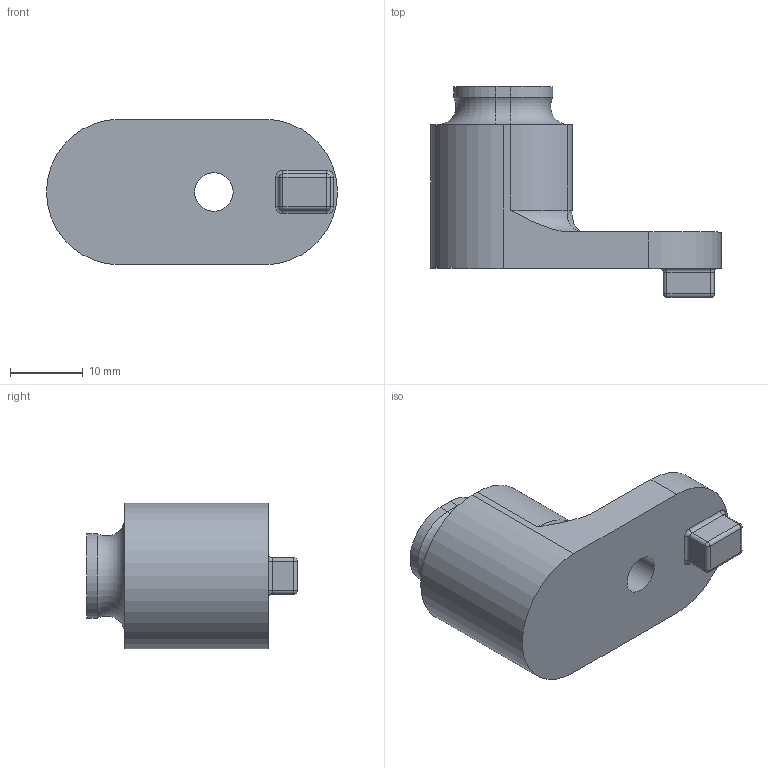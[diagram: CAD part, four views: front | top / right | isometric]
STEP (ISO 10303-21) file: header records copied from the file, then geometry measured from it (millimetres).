
FILE_DESCRIPTION((''),'2;1');
FILE_NAME('0000209203','2024-03-09T12:40:06',('Wyndorps'),(''),'CREO PARAMETRIC BY PTC INC, 2022484','CREO PARAMETRIC BY PTC INC, 2022484','');
FILE_SCHEMA(('CONFIG_CONTROL_DESIGN'));
Length unit declared in the file: millimetre
Products named in the file (1): 0000209203
Bounding box: 40 x 29 x 20 mm (x, y, z)
Volume: 8967.2 mm3; surface area: 3192.3 mm2
Topology: 1 solids, 1 shells, 55 faces, 126 edges, 74 vertices
Faces by surface type: cylinder 25, plane 15, torus 9, sphere 4, bspline 2
Entity records: 1713 total; most frequent: CARTESIAN_POINT 404, DIRECTION 290, ORIENTED_EDGE 252, EDGE_CURVE 126, AXIS2_PLACEMENT_3D 119, VERTEX_POINT 74, CIRCLE 66, EDGE_LOOP 58
